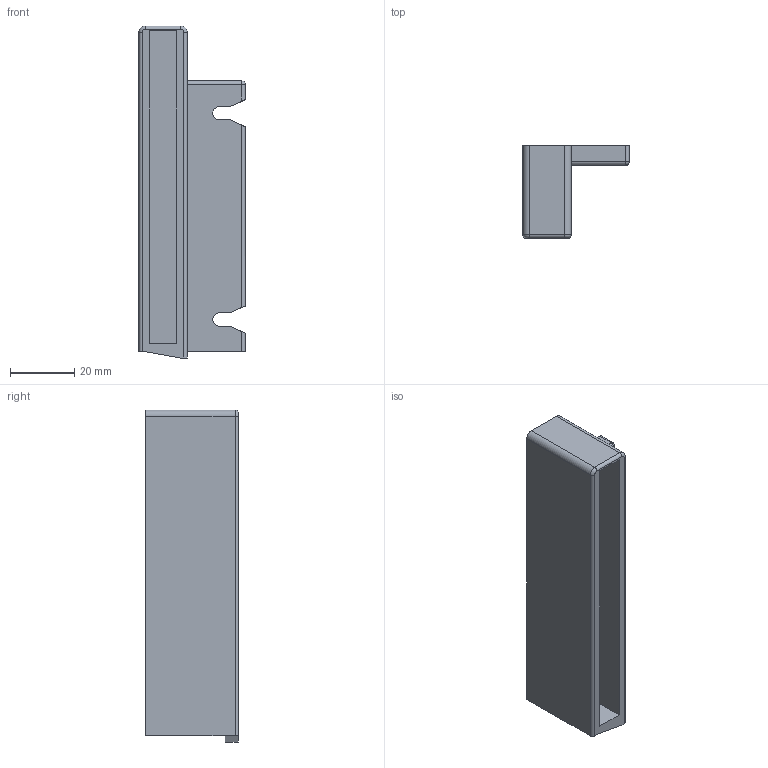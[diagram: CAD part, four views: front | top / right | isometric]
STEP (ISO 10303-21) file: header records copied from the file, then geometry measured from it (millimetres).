
FILE_DESCRIPTION (( 'STEP AP214' ), '1' );
FILE_NAME ('Abdeckkappe_Deluxe_hinten_links_HRW_Crystal .step', '2012-12-04T14:10:19', ( 'Grass' ), ( '' ), 'SwSTEP 2.0', 'SolidWorks 2012', '' );
FILE_SCHEMA (( 'AUTOMOTIVE_DESIGN' ));
Length unit declared in the file: millimetre
Products named in the file (1): Abdeckkappe_Deluxe_hinten_links_HRW_Crystal 
Bounding box: 33 x 28.75 x 103 mm (x, y, z)
Volume: 43295 mm3; surface area: 14915.8 mm2
Topology: 1 solids, 1 shells, 54 faces, 147 edges, 95 vertices
Faces by surface type: plane 33, cylinder 18, torus 2, sphere 1
Entity records: 1722 total; most frequent: CARTESIAN_POINT 308, ORIENTED_EDGE 292, DIRECTION 286, EDGE_CURVE 146, VECTOR 108, LINE 108, VERTEX_POINT 95, AXIS2_PLACEMENT_3D 89
